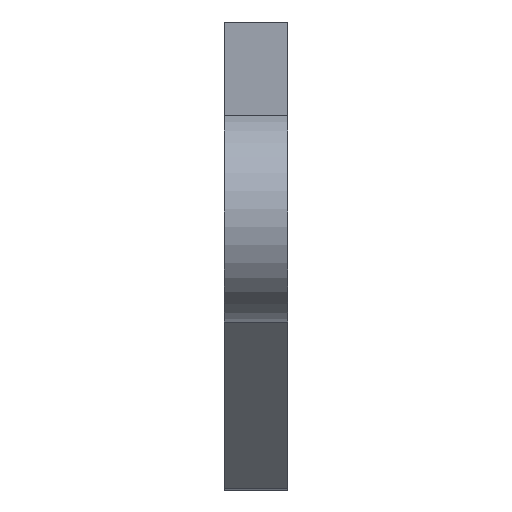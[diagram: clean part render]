
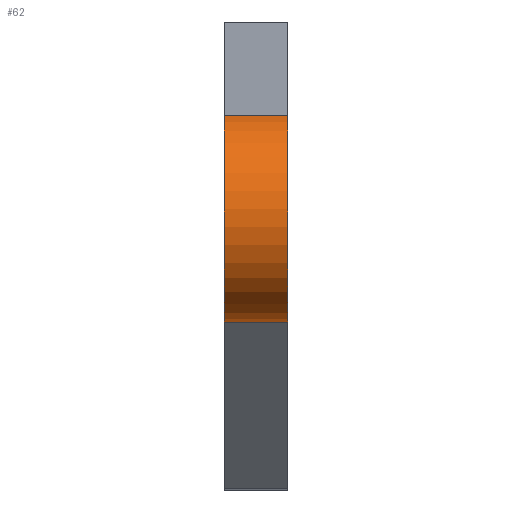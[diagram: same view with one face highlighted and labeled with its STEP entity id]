
A CAD part, front view. The second image highlights one B-rep face of the part: STEP entity #62.
In plain terms, the highlighted cylindrical face has radius 6.679 mm (diameter 13.357 mm), a partial arc.
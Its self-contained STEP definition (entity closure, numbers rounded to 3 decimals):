
#55 = FACE_OUTER_BOUND ( 'NONE', #650, .T. ) ;
#62 = ADVANCED_FACE ( 'NONE', ( #55 ), #1052, .T. ) ;
#78 = VECTOR ( 'NONE', #1360, 1000. ) ;
#223 = VERTEX_POINT ( 'NONE', #537 ) ;
#250 = AXIS2_PLACEMENT_3D ( 'NONE', #1190, #1041, #1688 ) ;
#268 = DIRECTION ( 'NONE',  ( 0., 0., -1. ) ) ;
#425 = CIRCLE ( 'NONE', #250, 6.679 ) ;
#453 = VECTOR ( 'NONE', #783, 1000. ) ;
#537 = CARTESIAN_POINT ( 'NONE',  ( 2., -97.887, 4.072 ) ) ;
#543 = DIRECTION ( 'NONE',  ( 0., 0., 1. ) ) ;
#545 = EDGE_CURVE ( 'NONE', #845, #223, #425, .T. ) ;
#650 = EDGE_LOOP ( 'NONE', ( #1972, #1652, #1280, #1705 ) ) ;
#670 = EDGE_CURVE ( 'NONE', #940, #985, #1644, .T. ) ;
#699 = CARTESIAN_POINT ( 'NONE',  ( 2., -101.513, 16.928 ) ) ;
#754 = AXIS2_PLACEMENT_3D ( 'NONE', #1821, #862, #543 ) ;
#783 = DIRECTION ( 'NONE',  ( -1., 0., 0. ) ) ;
#806 = EDGE_CURVE ( 'NONE', #223, #985, #948, .T. ) ;
#845 = VERTEX_POINT ( 'NONE', #699 ) ;
#862 = DIRECTION ( 'NONE',  ( -1., 0., 0. ) ) ;
#882 = EDGE_CURVE ( 'NONE', #845, #940, #1653, .T. ) ;
#940 = VERTEX_POINT ( 'NONE', #1500 ) ;
#948 = LINE ( 'NONE', #2080, #453 ) ;
#985 = VERTEX_POINT ( 'NONE', #1038 ) ;
#1038 = CARTESIAN_POINT ( 'NONE',  ( -2., -97.887, 4.072 ) ) ;
#1041 = DIRECTION ( 'NONE',  ( 1., 0., 0. ) ) ;
#1052 = CYLINDRICAL_SURFACE ( 'NONE', #754, 6.679 ) ;
#1190 = CARTESIAN_POINT ( 'NONE',  ( 2., -99.7, 10.5 ) ) ;
#1236 = DIRECTION ( 'NONE',  ( 1., 0., 0. ) ) ;
#1280 = ORIENTED_EDGE ( 'NONE', *, *, #545, .F. ) ;
#1360 = DIRECTION ( 'NONE',  ( -1., 0., 0. ) ) ;
#1418 = AXIS2_PLACEMENT_3D ( 'NONE', #1720, #1236, #268 ) ;
#1500 = CARTESIAN_POINT ( 'NONE',  ( -2., -101.513, 16.928 ) ) ;
#1644 = CIRCLE ( 'NONE', #1418, 6.679 ) ;
#1652 = ORIENTED_EDGE ( 'NONE', *, *, #806, .F. ) ;
#1653 = LINE ( 'NONE', #1684, #78 ) ;
#1684 = CARTESIAN_POINT ( 'NONE',  ( 2., -101.513, 16.928 ) ) ;
#1688 = DIRECTION ( 'NONE',  ( 0., 0., -1. ) ) ;
#1705 = ORIENTED_EDGE ( 'NONE', *, *, #882, .T. ) ;
#1720 = CARTESIAN_POINT ( 'NONE',  ( -2., -99.7, 10.5 ) ) ;
#1821 = CARTESIAN_POINT ( 'NONE',  ( 2., -99.7, 10.5 ) ) ;
#1972 = ORIENTED_EDGE ( 'NONE', *, *, #670, .T. ) ;
#2080 = CARTESIAN_POINT ( 'NONE',  ( 2., -97.887, 4.072 ) ) ;
